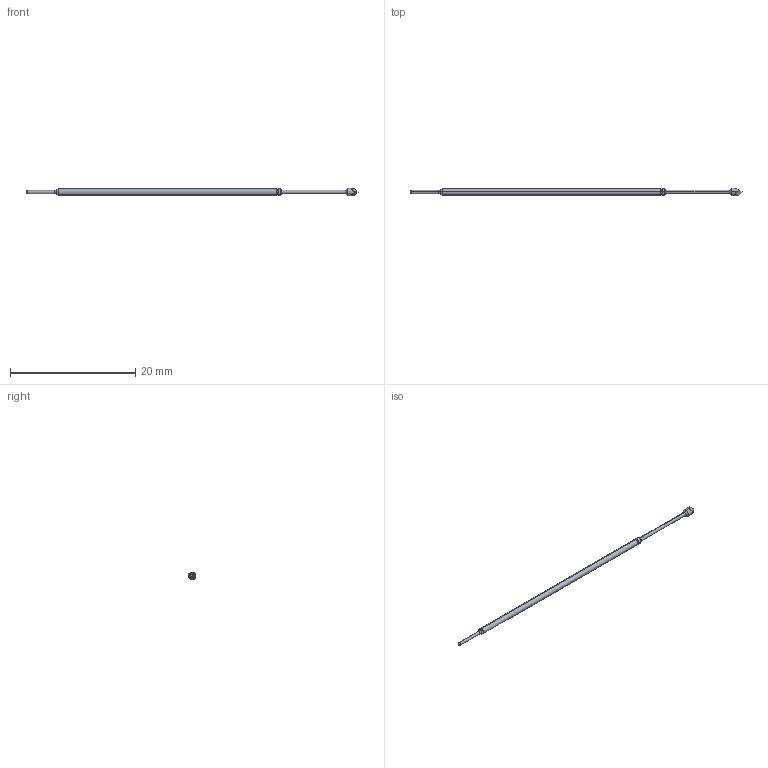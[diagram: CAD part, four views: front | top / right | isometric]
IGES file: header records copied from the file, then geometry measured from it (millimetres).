
Start section: SolidWorks IGES file using analytic representation for surfaces
Global section: file name: C:\Documents and Settings\mrumschlag\Desktop\changes\new\test\T.IGS; native system: SolidWorks 2011; preprocessor: SolidWorks 2011; author: mrumschlag; date: 110630.163408; units: inch
Bounding box: 53.09 x 1.19 x 1.19 mm (x, y, z)
Surface area: 142.8 mm2 (no closed solid volume)
Topology: 0 solids, 0 shells, 30 faces, 190 edges, 188 vertices
Faces by surface type: revolution 18, bspline 12
